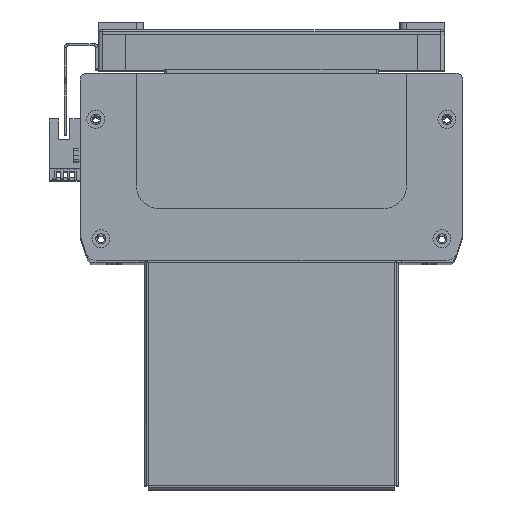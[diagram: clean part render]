
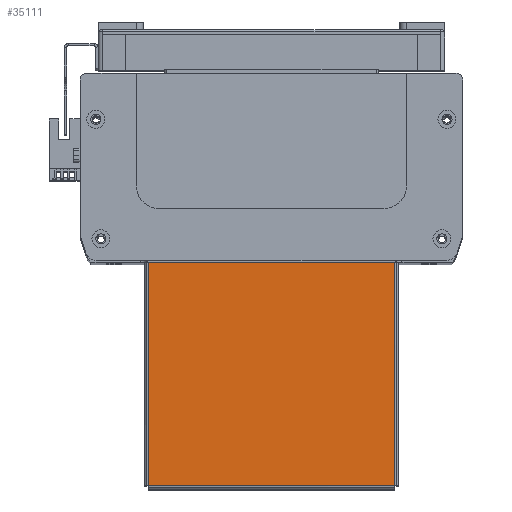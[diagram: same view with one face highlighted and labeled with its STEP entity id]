
A CAD part, top view. The second image highlights one B-rep face of the part: STEP entity #35111.
In plain terms, the highlighted planar face has unit normal (0, 0, 1).
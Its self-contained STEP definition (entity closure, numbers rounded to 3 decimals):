
#16373 = VERTEX_POINT ( 'NONE', #45115 ) ;
#16379 = VERTEX_POINT ( 'NONE', #45087 ) ;
#16390 = VERTEX_POINT ( 'NONE', #45166 ) ;
#16432 = VERTEX_POINT ( 'NONE', #45217 ) ;
#20792 = DIRECTION ( 'NONE',  ( 0., -1., 0. ) ) ;
#20802 = CARTESIAN_POINT ( 'NONE',  ( -55.5, 50., 0. ) ) ;
#20806 = DIRECTION ( 'NONE',  ( -1., 0., 0. ) ) ;
#20807 = CARTESIAN_POINT ( 'NONE',  ( -54.763, 50., 0. ) ) ;
#20882 = CARTESIAN_POINT ( 'NONE',  ( -54.793, -49.263, 0. ) ) ;
#20883 = DIRECTION ( 'NONE',  ( 1., 0., 0. ) ) ;
#20909 = CARTESIAN_POINT ( 'NONE',  ( 54.763, -49.293, 0. ) ) ;
#20910 = DIRECTION ( 'NONE',  ( 0., 1., 0. ) ) ;
#23018 = FACE_OUTER_BOUND ( 'NONE', #43408, .T. ) ;
#24674 = DIRECTION ( 'NONE',  ( 0., 0., 1. ) ) ;
#24684 = CARTESIAN_POINT ( 'NONE',  ( 0., 0., 0. ) ) ;
#24685 = DIRECTION ( 'NONE',  ( 1., 0., 0. ) ) ;
#24694 = PLANE ( 'NONE',  #36447 ) ;
#31429 = LINE ( 'NONE', #20802, #31468 ) ;
#31456 = VECTOR ( 'NONE', #20792, 1000. ) ;
#31466 = LINE ( 'NONE', #20807, #31456 ) ;
#31468 = VECTOR ( 'NONE', #20806, 1000. ) ;
#31471 = VECTOR ( 'NONE', #20910, 1000. ) ;
#31472 = VECTOR ( 'NONE', #20883, 1000. ) ;
#31527 = LINE ( 'NONE', #20882, #31472 ) ;
#31529 = LINE ( 'NONE', #20909, #31471 ) ;
#31681 = ORIENTED_EDGE ( 'NONE', *, *, #33830, .T. ) ;
#31775 = ORIENTED_EDGE ( 'NONE', *, *, #33812, .T. ) ;
#31797 = ORIENTED_EDGE ( 'NONE', *, *, #33805, .T. ) ;
#31826 = ORIENTED_EDGE ( 'NONE', *, *, #33849, .T. ) ;
#33805 = EDGE_CURVE ( 'NONE', #16432, #16379, #31466, .T. ) ;
#33812 = EDGE_CURVE ( 'NONE', #16390, #16432, #31429, .T. ) ;
#33830 = EDGE_CURVE ( 'NONE', #16379, #16373, #31527, .T. ) ;
#33849 = EDGE_CURVE ( 'NONE', #16373, #16390, #31529, .T. ) ;
#35111 = ADVANCED_FACE ( 'NONE', ( #23018 ), #24694, .T. ) ;
#36447 = AXIS2_PLACEMENT_3D ( 'NONE', #24684, #24674, #24685 ) ;
#43408 = EDGE_LOOP ( 'NONE', ( #31797, #31681, #31826, #31775 ) ) ;
#45087 = CARTESIAN_POINT ( 'NONE',  ( -54.763, -49.263, 0. ) ) ;
#45115 = CARTESIAN_POINT ( 'NONE',  ( 54.763, -49.263, 0. ) ) ;
#45166 = CARTESIAN_POINT ( 'NONE',  ( 54.763, 50., 0. ) ) ;
#45217 = CARTESIAN_POINT ( 'NONE',  ( -54.763, 50., 0. ) ) ;
